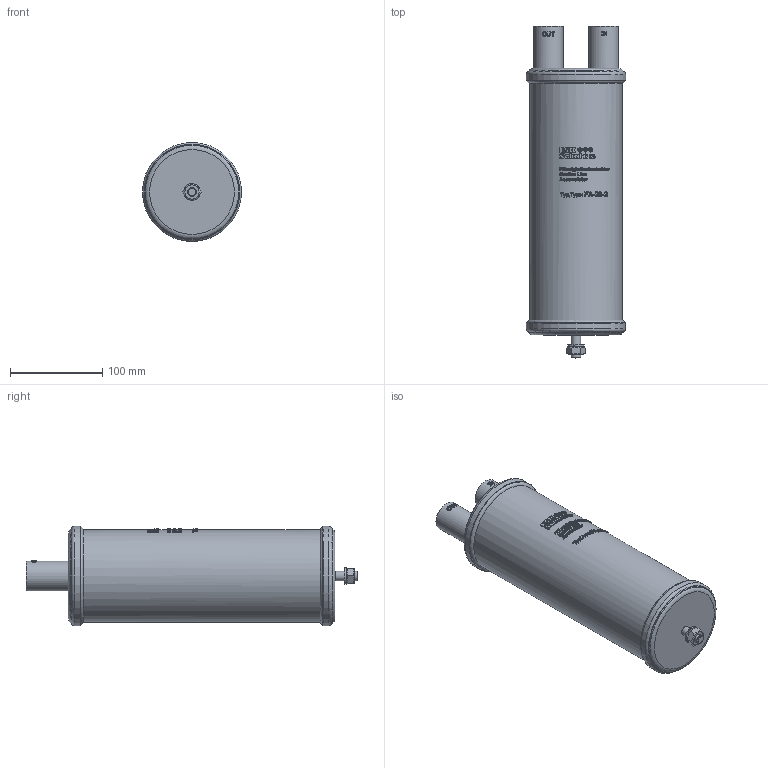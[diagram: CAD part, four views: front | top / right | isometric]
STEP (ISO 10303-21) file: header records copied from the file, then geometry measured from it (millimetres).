
FILE_DESCRIPTION(/* description */ (''),/* implementation_level */ '2;1');
FILE_NAME(/* name */ 'P:\FA\FA-28-2\FA-28-2.stp',/* time_stamp */ '2017-10-05T07:51:03+02:00',/* author */ ('neufeld'),/* organization */ (''),/* preprocessor_version */ 'ST-DEVELOPER v16.1',/* originating_system */ 'Autodesk Inventor 2016',/* authorisation */ '');
FILE_SCHEMA (('AUTOMOTIVE_DESIGN { 1 0 10303 214 3 1 1 }'));
Products named in the file (2): FA-28-2; FA-28-2_1
Assembly tree (1 placements, depth 2):
  FA-28-2_1
    FA-28-2
Bounding box: 107.51 x 360.2 x 107.51 mm (x, y, z)
Volume: 2347783.8 mm3; surface area: 125347.8 mm2
Topology: 2 solids, 3 shells, 1280 faces, 3459 edges, 2301 vertices
Faces by surface type: plane 680, bspline 461, cylinder 120, torus 12, cone 7
Full cylindrical faces by diameter (mm): 10 x2, 28.7 x2, 32 x2, 100 x1, 105.978 x1, 105.983 x1, 107.5 x1, 107.506 x1
Entity records: 49611 total; most frequent: CARTESIAN_POINT 19847, ORIENTED_EDGE 6856, DIRECTION 5002, EDGE_CURVE 3428, VERTEX_POINT 2298, AXIS2_PLACEMENT_3D 1691, LINE 1620, VECTOR 1620
